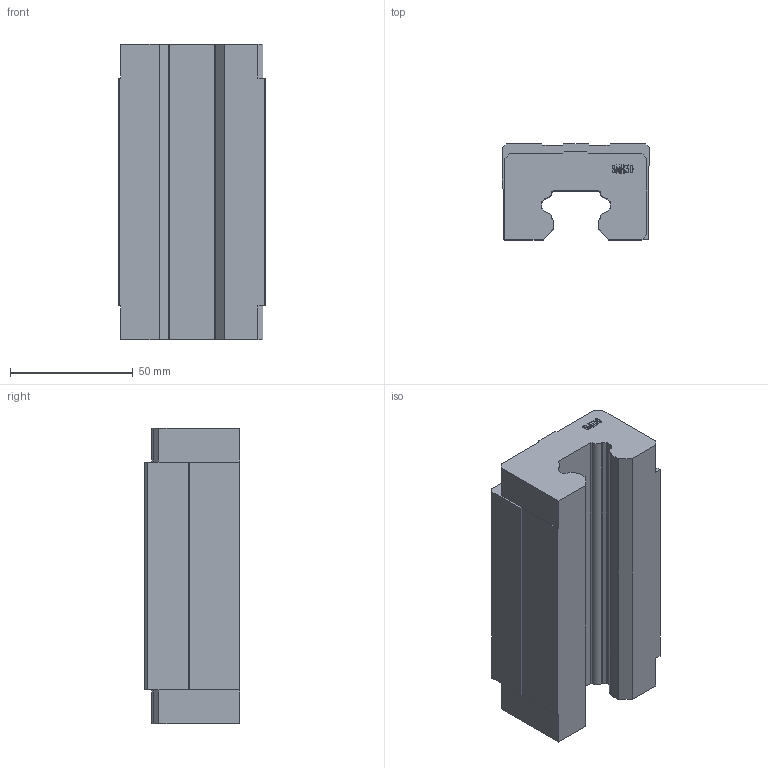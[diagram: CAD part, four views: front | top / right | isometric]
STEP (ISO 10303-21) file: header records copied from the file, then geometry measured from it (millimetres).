
FILE_DESCRIPTION (( 'STEP AP203' ), '1' );
FILE_NAME ('SMH30BL.stp', '2019-09-25T02:19:15', ( 'pgos' ), ( '' ), 'SwSTEP 2.0', 'SolidWorks 2014', '' );
FILE_SCHEMA (( 'CONFIG_CONTROL_DESIGN' ));
Length unit declared in the file: millimetre
Products named in the file (1): SMH30BL
Bounding box: 60 x 39 x 120.4 mm (x, y, z)
Volume: 213835.6 mm3; surface area: 33373.9 mm2
Topology: 1 solids, 1 shells, 209 faces, 591 edges, 394 vertices
Faces by surface type: plane 131, bspline 50, cylinder 28
Entity records: 9170 total; most frequent: CARTESIAN_POINT 3957, ORIENTED_EDGE 1182, DIRECTION 867, EDGE_CURVE 591, LINE 435, VECTOR 435, VERTEX_POINT 394, EDGE_LOOP 219
